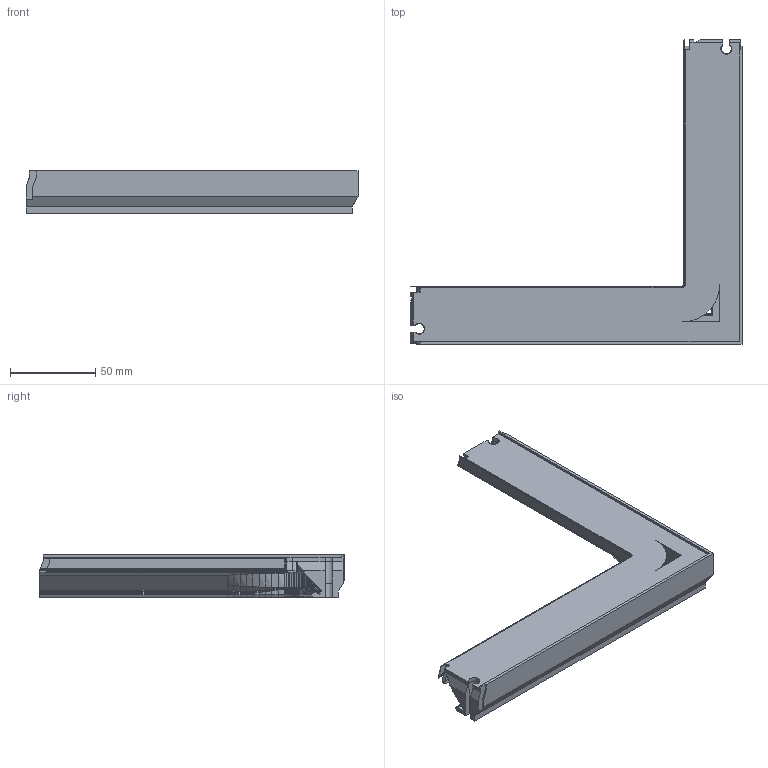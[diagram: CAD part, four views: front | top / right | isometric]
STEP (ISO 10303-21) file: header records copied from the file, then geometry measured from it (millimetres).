
FILE_DESCRIPTION(('Open CASCADE Model'),'2;1');
FILE_NAME('Open CASCADE Shape Model','2026-10-24T08:15:10',('Author'),( 'Open CASCADE'),'Open CASCADE STEP processor 8.0','build123d', 'Unknown');
FILE_SCHEMA(('AUTOMOTIVE_DESIGN { 1 0 10303 214 1 1 1 1 }'));
Products named in the file (1): SOLID
Bounding box: 195.1 x 179.1 x 25 mm (x, y, z)
Volume: 182767.7 mm3; surface area: 47830.7 mm2
Topology: 1 solids, 1 shells, 2250 faces, 4822 edges, 2574 vertices
Faces by surface type: bspline 1846, plane 398, cone 6
Entity records: 116343 total; most frequent: CARTESIAN_POINT 30560, DIRECTION 10782, LINE 9954, VECTOR 9954, ORIENTED_EDGE 9644, PCURVE 9644, DEFINITIONAL_REPRESENTATION 9644, EDGE_CURVE 4822
